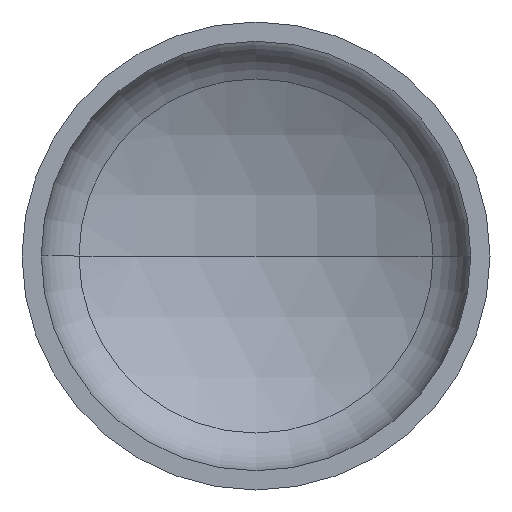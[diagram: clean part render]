
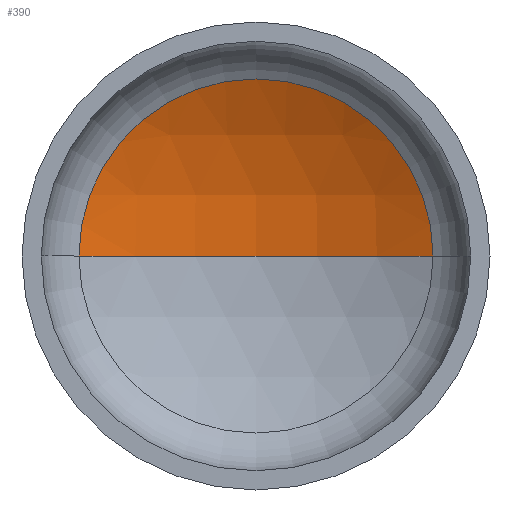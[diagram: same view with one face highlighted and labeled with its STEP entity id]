
A CAD part, front view. The second image highlights one B-rep face of the part: STEP entity #390.
In plain terms, the highlighted spherical face has radius 1440 mm.
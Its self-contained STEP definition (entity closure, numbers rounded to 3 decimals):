
#10 = EDGE_LOOP ( 'NONE', ( #92, #15, #77 ) ) ;
#15 = ORIENTED_EDGE ( 'NONE', *, *, #129, .T. ) ;
#18 = VERTEX_POINT ( 'NONE', #233 ) ;
#51 = VERTEX_POINT ( 'NONE', #228 ) ;
#77 = ORIENTED_EDGE ( 'NONE', *, *, #109, .T. ) ;
#82 = VERTEX_POINT ( 'NONE', #315 ) ;
#83 = CARTESIAN_POINT ( 'NONE',  ( 0., -906.462, 0. ) ) ;
#92 = ORIENTED_EDGE ( 'NONE', *, *, #168, .F. ) ;
#100 = DIRECTION ( 'NONE',  ( 0., 0., -1. ) ) ;
#103 = CIRCLE ( 'NONE', #401, 1440. ) ;
#109 = EDGE_CURVE ( 'NONE', #18, #51, #334, .T. ) ;
#129 = EDGE_CURVE ( 'NONE', #82, #18, #249, .T. ) ;
#134 = CARTESIAN_POINT ( 'NONE',  ( 0., -906.462, 0. ) ) ;
#146 = CARTESIAN_POINT ( 'NONE',  ( 0., -906.462, 0. ) ) ;
#165 = DIRECTION ( 'NONE',  ( 0., 0., -1. ) ) ;
#166 = DIRECTION ( 'NONE',  ( -1., 0., 0. ) ) ;
#168 = EDGE_CURVE ( 'NONE', #82, #51, #103, .T. ) ;
#211 = DIRECTION ( 'NONE',  ( 1., 0., 0. ) ) ;
#228 = CARTESIAN_POINT ( 'NONE',  ( -681.064, 362.298, 0. ) ) ;
#233 = CARTESIAN_POINT ( 'NONE',  ( 681.064, 362.298, 0. ) ) ;
#236 = AXIS2_PLACEMENT_3D ( 'NONE', #330, #329, #211 ) ;
#249 = CIRCLE ( 'NONE', #319, 1440. ) ;
#251 = SPHERICAL_SURFACE ( 'NONE', #410, 1440. ) ;
#287 = DIRECTION ( 'NONE',  ( 0., 0., 1. ) ) ;
#313 = DIRECTION ( 'NONE',  ( 1., 0., 0. ) ) ;
#315 = CARTESIAN_POINT ( 'NONE',  ( 0., 533.538, 0. ) ) ;
#319 = AXIS2_PLACEMENT_3D ( 'NONE', #146, #165, #166 ) ;
#329 = DIRECTION ( 'NONE',  ( 0., -1., 0. ) ) ;
#330 = CARTESIAN_POINT ( 'NONE',  ( 0., 362.298, 0. ) ) ;
#334 = CIRCLE ( 'NONE', #236, 681.064 ) ;
#386 = FACE_OUTER_BOUND ( 'NONE', #10, .T. ) ;
#389 = DIRECTION ( 'NONE',  ( -1., 0., 0. ) ) ;
#390 = ADVANCED_FACE ( 'NONE', ( #386 ), #251, .F. ) ;
#401 = AXIS2_PLACEMENT_3D ( 'NONE', #83, #287, #313 ) ;
#410 = AXIS2_PLACEMENT_3D ( 'NONE', #134, #100, #389 ) ;
